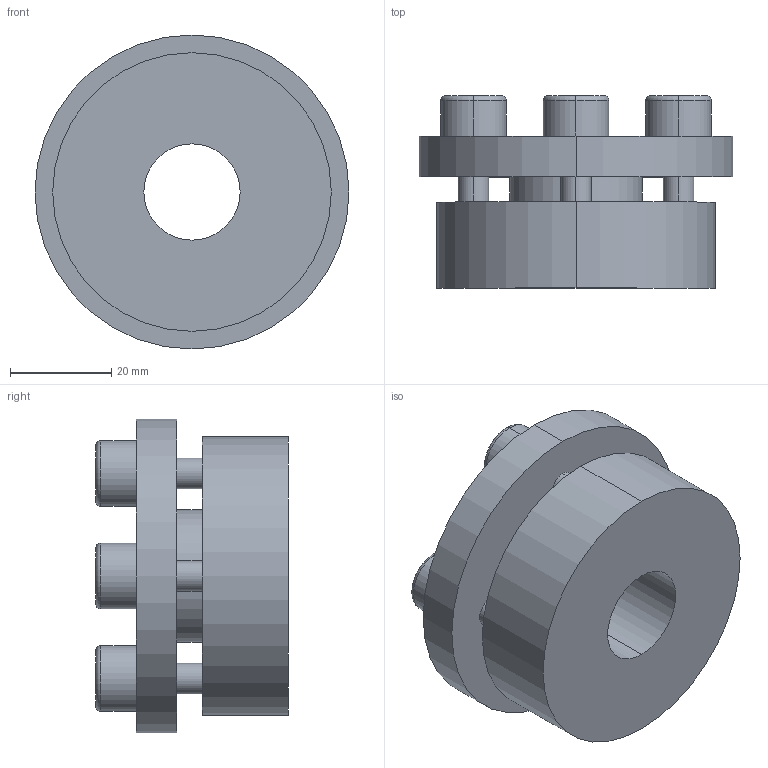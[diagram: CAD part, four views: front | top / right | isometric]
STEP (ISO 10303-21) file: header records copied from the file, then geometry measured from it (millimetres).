
FILE_DESCRIPTION (( 'STEP AP203' ), '1' );
FILE_NAME ('PL-H4 19-55.STEP', '2021-10-23T01:18:16', ( '' ), ( '' ), 'SwSTEP 2.0', 'SolidWorks 2018', '' );
FILE_SCHEMA (( 'CONFIG_CONTROL_DESIGN' ));
Length unit declared in the file: millimetre
Products named in the file (1): PL-H4 19-55
Bounding box: 62 x 38 x 62 mm (x, y, z)
Volume: 63011.7 mm3; surface area: 17560.7 mm2
Topology: 1 solids, 1 shells, 68 faces, 160 edges, 104 vertices
Faces by surface type: plane 36, cylinder 24, torus 8
Entity records: 2061 total; most frequent: DIRECTION 362, CARTESIAN_POINT 333, ORIENTED_EDGE 320, EDGE_CURVE 160, AXIS2_PLACEMENT_3D 133, VERTEX_POINT 104, LINE 96, VECTOR 96
